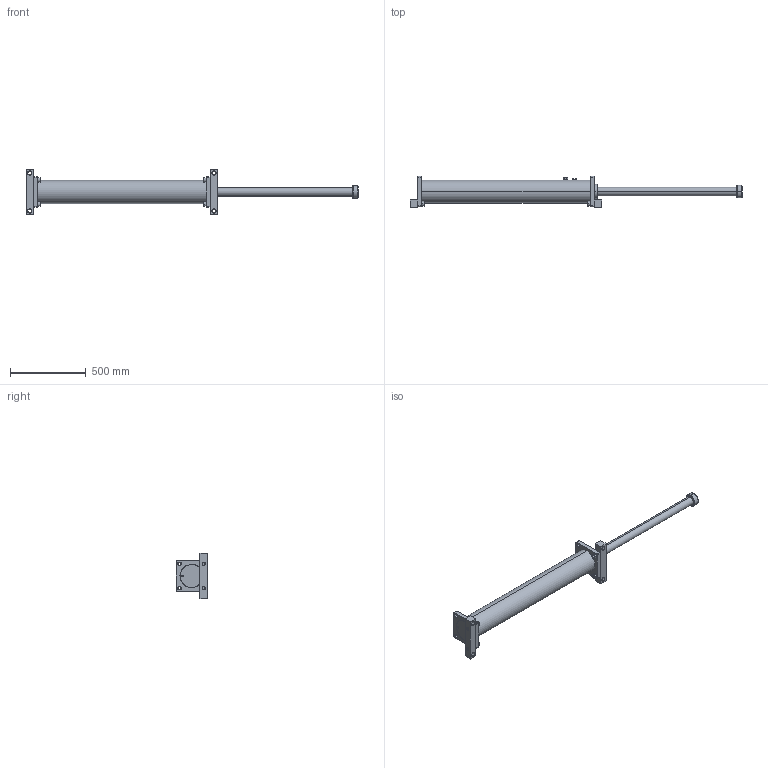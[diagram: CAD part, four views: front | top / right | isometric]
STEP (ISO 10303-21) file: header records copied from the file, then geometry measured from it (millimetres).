
FILE_DESCRIPTION (( 'STEP AP214' ), '1' );
FILE_NAME ('LDD3.5X36.STEP', '2019-01-16T08:25:58', ( 'user' ), ( 'Microsoft' ), 'SwSTEP 2.0', 'SolidWorks 2016', '' );
FILE_SCHEMA (( 'AUTOMOTIVE_DESIGN' ));
Length unit declared in the file: inch
Products named in the file (1): LDD3.5X36
Bounding box: 2187.4 x 205 x 300 mm (x, y, z)
Surface area: 1094709.3 mm2 (no closed solid volume)
Topology: 0 solids, 22 shells, 256 faces, 707 edges, 478 vertices
Faces by surface type: plane 89, cylinder 82, cone 53, bspline 32
Entity records: 14802 total; most frequent: CARTESIAN_POINT 8315, DIRECTION 1363, ORIENTED_EDGE 1254, EDGE_CURVE 707, AXIS2_PLACEMENT_3D 531, VERTEX_POINT 478, EDGE_LOOP 313, CIRCLE 306
